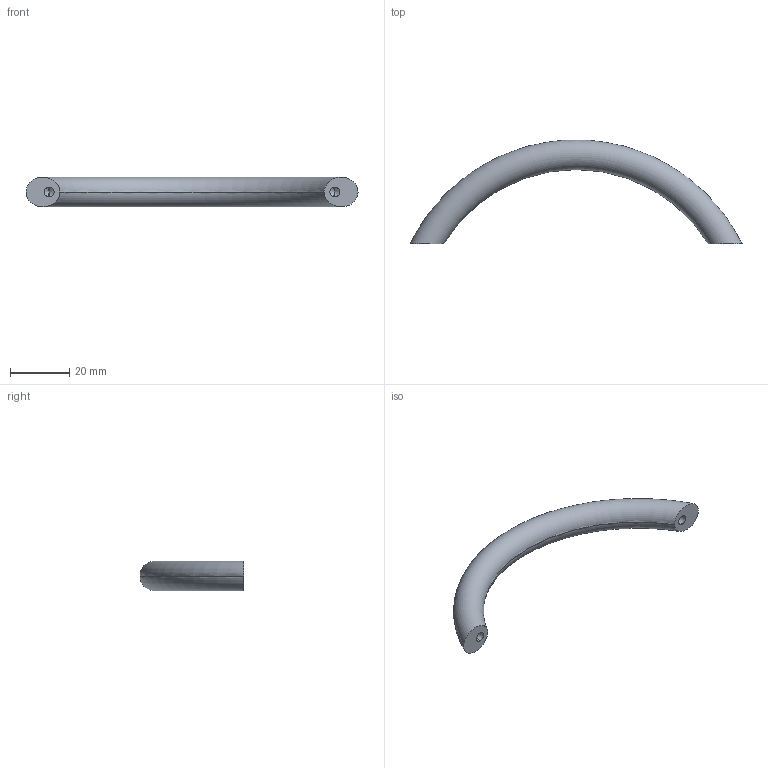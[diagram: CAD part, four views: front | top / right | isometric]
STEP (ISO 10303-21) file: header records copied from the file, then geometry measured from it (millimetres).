
FILE_DESCRIPTION (( 'STEP AP214' ), '1' );
FILE_NAME ('424.1-10-96-SR.step', '2020-02-13T13:54:05', ( '' ), ( '' ), 'SwSTEP 2.0', 'SolidWorks 2019', '' );
FILE_SCHEMA (( 'AUTOMOTIVE_DESIGN' ));
Length unit declared in the file: millimetre
Products named in the file (1): 424.1-10-96-SR
Bounding box: 111.62 x 34.94 x 10 mm (x, y, z)
Volume: 9510.8 mm3; surface area: 4194.2 mm2
Topology: 1 solids, 1 shells, 12 faces, 26 edges, 14 vertices
Faces by surface type: cylinder 4, cone 4, torus 2, plane 2
Entity records: 510 total; most frequent: CARTESIAN_POINT 189, DIRECTION 54, ORIENTED_EDGE 44, AXIS2_PLACEMENT_3D 23, EDGE_CURVE 22, VERTEX_POINT 14, EDGE_LOOP 14, FACE_OUTER_BOUND 12
